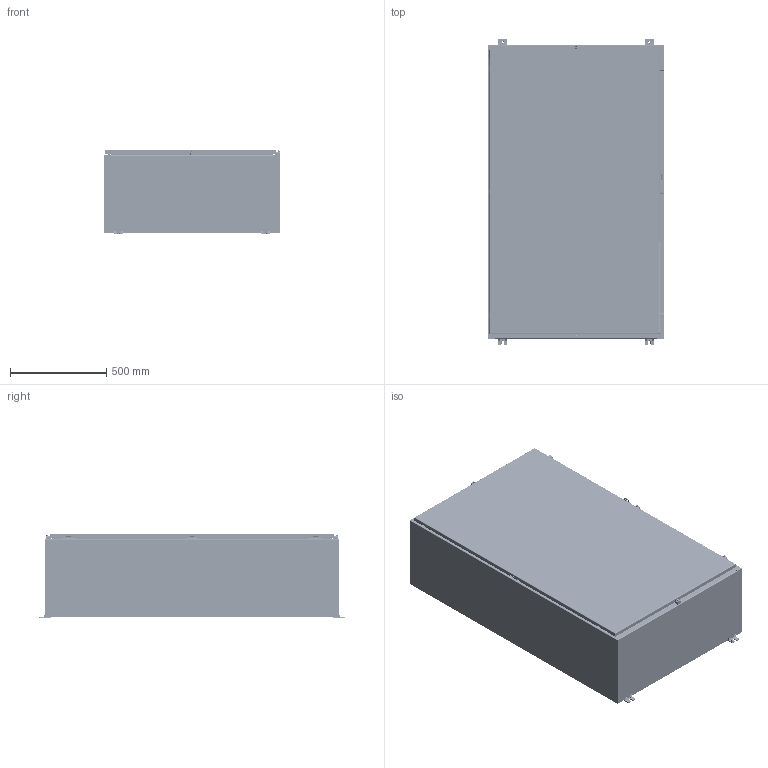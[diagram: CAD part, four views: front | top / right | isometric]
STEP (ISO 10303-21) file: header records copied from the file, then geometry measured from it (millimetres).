
FILE_DESCRIPTION((''),'2;1');
FILE_NAME('MODEL-309_ASM','2026-07-13T14:52:35',('joshi'),('SAGINAW CONTROL & ENGINEERING'),'CREO PARAMETRIC BY PTC INC, 2021284','CREO PARAMETRIC BY PTC INC, 2021284','');
FILE_SCHEMA(('AUTOMOTIVE_DESIGN { 1 0 10303 214 1 1 1 1 }'));
Length unit declared in the file: inch
Products named in the file (36): MODEL-309-BDY; MODEL-309-TP; MODEL-309-BTM; MODEL-309-DR; 100837; 100882; 111267; MODEL-309-DOOR-GASKET; 126391; 126391_ASM; 126393; 102483; 101226; 101376; 102140; 115117; MODEL-309-DOOR-ASSY_ASM; 101653; 121454; 120132_BASE; 120132_CLAMP; 120132_SCREW; 120132_SPRING; 120132_ASM; 120133; SUBPANEL; 100904; SUBPANEL-SUBASSEMBLY_ASM; 128630; 100059; 128630_ASM; 128631; 128631_ASM; 100921; 125493_ASM; MODEL-309_ASM
Assembly tree (88 placements, depth 4):
  MODEL-309_ASM
    MODEL-309-BDY
    MODEL-309-TP
    MODEL-309-BTM
    MODEL-309-DOOR-ASSY_ASM
      MODEL-309-DR
      100837  x3
      100882  x2
      111267
      MODEL-309-DOOR-GASKET
      126391_ASM  x3
        126391
      126393  x3
      102483  x10
      101226  x3
      101376  x3
      102140  x3
      115117
    100837
    101653  x8
    121454
    120132_ASM  x5
      120132_BASE
      120132_CLAMP
      120132_SCREW
      120132_SPRING
    100882  x6
    120133
    SUBPANEL-SUBASSEMBLY_ASM
      SUBPANEL
      100904  x8
    125493_ASM
      128630_ASM  x2
        128630
        100059
      128631_ASM  x2
        128631
        100059
      100921  x4
Bounding box: 914.4 x 1587.5 x 440.13 mm (x, y, z)
Volume: 14386832.9 mm3; surface area: 13101616.6 mm2
Topology: 97 solids, 97 shells, 7068 faces, 18326 edges, 11583 vertices
Faces by surface type: plane 2648, cylinder 1804, bspline 1529, torus 686, cone 234, sphere 167
Entity records: 120829 total; most frequent: CARTESIAN_POINT 36831, ORIENTED_EDGE 12450, DIRECTION 12135, PRESENTATION_STYLE_ASSIGNMENT 6358, STYLED_ITEM 6358, CURVE_STYLE 6225, EDGE_CURVE 6225, AXIS2_PLACEMENT_3D 4502
